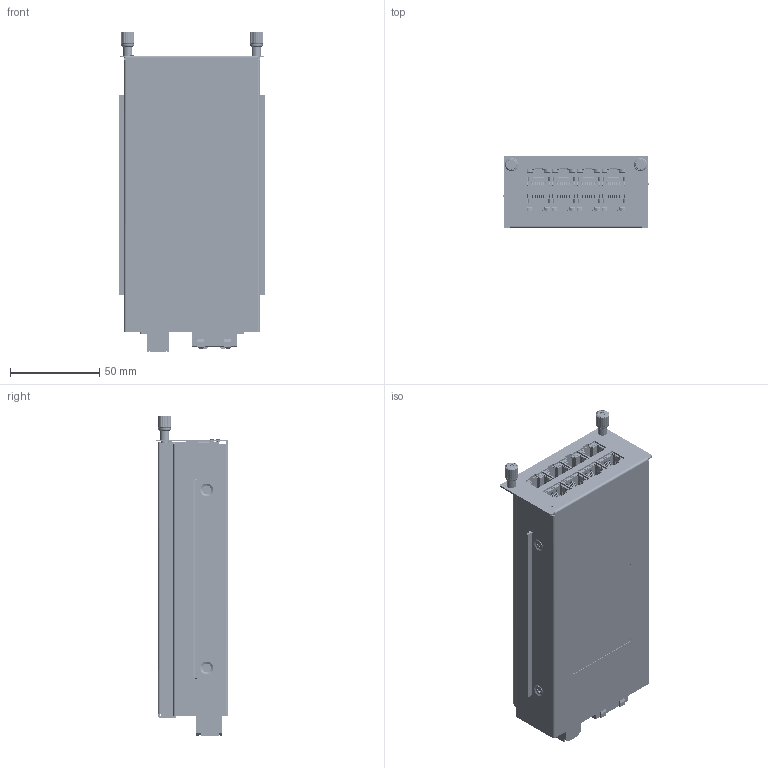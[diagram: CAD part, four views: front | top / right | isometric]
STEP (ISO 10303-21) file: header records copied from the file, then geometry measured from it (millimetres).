
FILE_DESCRIPTION((''),'2;1');
FILE_NAME('777','2026-05-07T16:36:50',('StanJH_Cheng'),('PTC'),'CREO PARAMETRIC BY PTC INC, 2023294','CREO PARAMETRIC BY PTC INC, 2023294','');
FILE_SCHEMA(('AUTOMOTIVE_DESIGN { 1 0 10303 214 1 1 1 1 }'));
Products named in the file (1): 777
Bounding box: 82 x 40.5 x 179.5 mm (x, y, z)
Volume: 29522.6 mm3; surface area: 150113.7 mm2
Topology: 108 solids, 217 shells, 18704 faces, 53242 edges, 34134 vertices
Faces by surface type: plane 16210, cylinder 2104, cone 122, torus 118, bspline 92, sphere 58
Entity records: 717660 total; most frequent: CARTESIAN_POINT 118773, ORIENTED_EDGE 104743, DIRECTION 92319, EDGE_CURVE 53172, VECTOR 47146, LINE 47146, VERTEX_POINT 34134, AXIS2_PLACEMENT_3D 22585
